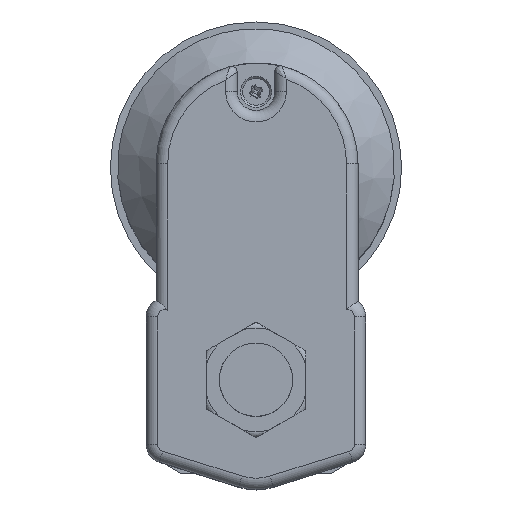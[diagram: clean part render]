
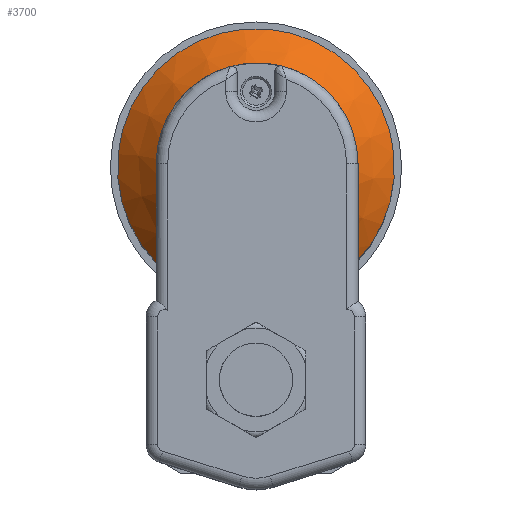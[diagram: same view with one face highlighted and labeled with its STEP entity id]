
A CAD part, top view. The second image highlights one B-rep face of the part: STEP entity #3700.
In plain terms, the highlighted conical face has half-angle 45 degrees and reference radius 48 mm.
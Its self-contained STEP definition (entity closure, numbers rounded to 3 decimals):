
#307 = CONICAL_SURFACE ( 'NONE', #3160, 48., 0.785 ) ;
#312 = FACE_OUTER_BOUND ( 'NONE', #2041, .T. ) ;
#313 = FACE_BOUND ( 'NONE', #2058, .T. ) ;
#1386 = CIRCLE ( 'NONE', #4270, 34. ) ;
#1409 = CIRCLE ( 'NONE', #4279, 48. ) ;
#2041 = EDGE_LOOP ( 'NONE', ( #4762, #4771 ) ) ;
#2058 = EDGE_LOOP ( 'NONE', ( #4772 ) ) ;
#2727 = CARTESIAN_POINT ( 'NONE',  ( 19.078, 34.224, 57.523 ) ) ;
#2728 = CARTESIAN_POINT ( 'NONE',  ( 2.477, 33.529, 61.127 ) ) ;
#2729 = CARTESIAN_POINT ( 'NONE',  ( 27.908, 34.847, 53.5 ) ) ;
#2730 = CARTESIAN_POINT ( 'NONE',  ( 8.537, 33.68, 60.402 ) ) ;
#2731 = CARTESIAN_POINT ( 'NONE',  ( -2.415, 33.538, 61.085 ) ) ;
#2732 = CARTESIAN_POINT ( 'NONE',  ( 4.908, 33.569, 60.942 ) ) ;
#2733 = CARTESIAN_POINT ( 'NONE',  ( 12.13, 33.83, 59.65 ) ) ;
#2734 = CARTESIAN_POINT ( 'NONE',  ( 9.746, 33.726, 60.177 ) ) ;
#2735 = CARTESIAN_POINT ( 'NONE',  ( 23.55, 34.529, 55.668 ) ) ;
#2737 = CARTESIAN_POINT ( 'NONE',  ( -1.188, 33.529, 61.13 ) ) ;
#2738 = CARTESIAN_POINT ( 'NONE',  ( 13.307, 33.888, 59.348 ) ) ;
#2739 = CARTESIAN_POINT ( 'NONE',  ( 16.801, 34.078, 58.337 ) ) ;
#2740 = CARTESIAN_POINT ( 'NONE',  ( -4.863, 33.577, 60.903 ) ) ;
#2742 = CARTESIAN_POINT ( 'NONE',  ( -8.505, 33.679, 60.407 ) ) ;
#2743 = CARTESIAN_POINT ( 'NONE',  ( 25.745, 34.688, 54.629 ) ) ;
#2745 = CARTESIAN_POINT ( 'NONE',  ( -9.715, 33.725, 60.183 ) ) ;
#2746 = CARTESIAN_POINT ( 'NONE',  ( -6.081, 33.605, 60.767 ) ) ;
#3160 = AXIS2_PLACEMENT_3D ( 'NONE', #5741, #5742, #5733 ) ;
#3382 = EDGE_CURVE ( 'NONE', #8147, #8147, #1386, .T. ) ;
#3398 = EDGE_CURVE ( 'NONE', #4618, #7515, #1409, .T. ) ;
#3446 = EDGE_CURVE ( 'NONE', #7515, #4618, #3674, .T. ) ;
#3674 = B_SPLINE_CURVE_WITH_KNOTS ( 'NONE', 3,
 ( #5154, #5156, #5161, #5160, #5158, #5159, #5157, #5165, #5148, #2745, #2742, #2746, #2740, #2731, #2737, #2728, #2732, #2730, #2734, #2733, #2738, #2739, #2727, #2735, #2743, #2729 ),
 .UNSPECIFIED., .F., .F.,
 ( 4, 2, 2, 2, 2, 2, 2, 2, 2, 2, 2, 2, 4 ),
 ( 0., 0.004, 0.007, 0.015, 0.018, 0.022, 0.026, 0.029, 0.037, 0.04, 0.044, 0.051, 0.059 ),
 .UNSPECIFIED. ) ;
#3700 = ADVANCED_FACE ( 'NONE', ( #313, #312 ), #307, .T. ) ;
#4270 = AXIS2_PLACEMENT_3D ( 'NONE', #6636, #6619, #6634 ) ;
#4279 = AXIS2_PLACEMENT_3D ( 'NONE', #6613, #6627, #6608 ) ;
#4618 = VERTEX_POINT ( 'NONE', #7756 ) ;
#4762 = ORIENTED_EDGE ( 'NONE', *, *, #3398, .T. ) ;
#4771 = ORIENTED_EDGE ( 'NONE', *, *, #3446, .T. ) ;
#4772 = ORIENTED_EDGE ( 'NONE', *, *, #3382, .F. ) ;
#5148 = CARTESIAN_POINT ( 'NONE',  ( -12.101, 33.829, 59.657 ) ) ;
#5154 = CARTESIAN_POINT ( 'NONE',  ( -27.908, 34.847, 53.5 ) ) ;
#5156 = CARTESIAN_POINT ( 'NONE',  ( -26.826, 34.768, 54.065 ) ) ;
#5157 = CARTESIAN_POINT ( 'NONE',  ( -16.779, 34.077, 58.344 ) ) ;
#5158 = CARTESIAN_POINT ( 'NONE',  ( -22.421, 34.452, 56.137 ) ) ;
#5159 = CARTESIAN_POINT ( 'NONE',  ( -19.06, 34.223, 57.53 ) ) ;
#5160 = CARTESIAN_POINT ( 'NONE',  ( -23.531, 34.53, 55.644 ) ) ;
#5161 = CARTESIAN_POINT ( 'NONE',  ( -25.733, 34.688, 54.609 ) ) ;
#5165 = CARTESIAN_POINT ( 'NONE',  ( -13.28, 33.887, 59.356 ) ) ;
#5733 = DIRECTION ( 'NONE',  ( 0., 1., 0. ) ) ;
#5741 = CARTESIAN_POINT ( 'NONE',  ( 0., 73.9, 53.5 ) ) ;
#5742 = DIRECTION ( 'NONE',  ( 0., 0., -1. ) ) ;
#6608 = DIRECTION ( 'NONE',  ( 0., -1., 0. ) ) ;
#6613 = CARTESIAN_POINT ( 'NONE',  ( 0., 73.9, 53.5 ) ) ;
#6619 = DIRECTION ( 'NONE',  ( 0., 0., 1. ) ) ;
#6627 = DIRECTION ( 'NONE',  ( 0., 0., 1. ) ) ;
#6634 = DIRECTION ( 'NONE',  ( 0., -1., 0. ) ) ;
#6636 = CARTESIAN_POINT ( 'NONE',  ( 0., 73.9, 67.5 ) ) ;
#7515 = VERTEX_POINT ( 'NONE', #8096 ) ;
#7756 = CARTESIAN_POINT ( 'NONE',  ( 27.908, 34.847, 53.5 ) ) ;
#8096 = CARTESIAN_POINT ( 'NONE',  ( -27.908, 34.847, 53.5 ) ) ;
#8147 = VERTEX_POINT ( 'NONE', #8148 ) ;
#8148 = CARTESIAN_POINT ( 'NONE',  ( 0., 39.9, 67.5 ) ) ;
